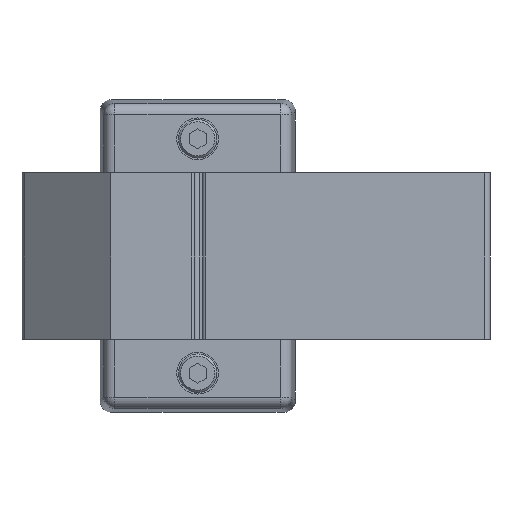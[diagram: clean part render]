
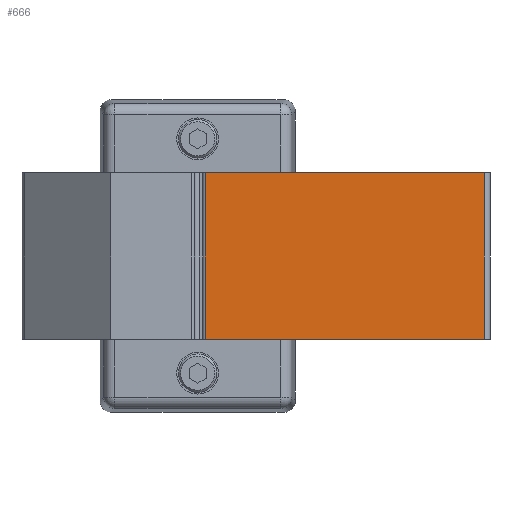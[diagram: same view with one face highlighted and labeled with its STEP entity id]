
A CAD part, left-side view. The second image highlights one B-rep face of the part: STEP entity #666.
In plain terms, the highlighted planar face has unit normal (-1, 0, 0) as drawn and (0, -1, 0) by its records, which use the part's own axes.
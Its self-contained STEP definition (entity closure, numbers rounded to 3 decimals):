
#666=ADVANCED_FACE('',(#1322),#1323,.F.);
#1322=FACE_OUTER_BOUND('',#2038,.T.);
#1323=PLANE('',#2039);
#2038=EDGE_LOOP('',(#3371,#3372,#3373,#3374));
#2039=AXIS2_PLACEMENT_3D('',#3375,#3376,#3377);
#3371=ORIENTED_EDGE('',*,*,#4503,.T.);
#3372=ORIENTED_EDGE('',*,*,#4930,.F.);
#3373=ORIENTED_EDGE('',*,*,#4931,.F.);
#3374=ORIENTED_EDGE('',*,*,#4651,.T.);
#3375=CARTESIAN_POINT('',(1.0,0.,29.8));
#3376=DIRECTION('',(0.,1.0,0.0));
#3377=DIRECTION('',(-1.0,0.,0.0));
#4503=EDGE_CURVE('',#5375,#5373,#5376,.T.);
#4651=EDGE_CURVE('',#5630,#5375,#5631,.T.);
#4930=EDGE_CURVE('',#6047,#5373,#6048,.T.);
#4931=EDGE_CURVE('',#5630,#6047,#6049,.T.);
#5373=VERTEX_POINT('',#6618);
#5375=VERTEX_POINT('',#6620);
#5376=LINE('',#6621,#6622);
#5630=VERTEX_POINT('',#6956);
#5631=LINE('',#6957,#6958);
#6047=VERTEX_POINT('',#7537);
#6048=LINE('',#7538,#7539);
#6049=LINE('',#7540,#7541);
#6618=CARTESIAN_POINT('',(51.0,0.0,0.0));
#6620=CARTESIAN_POINT('',(1.0,0.,0.0));
#6621=CARTESIAN_POINT('',(1.0,0.,0.0));
#6622=VECTOR('',#8073,1.0);
#6956=CARTESIAN_POINT('',(1.0,0.,29.8));
#6957=CARTESIAN_POINT('',(1.0,0.,29.8));
#6958=VECTOR('',#8274,1.0);
#7537=CARTESIAN_POINT('',(51.0,0.0,29.8));
#7538=CARTESIAN_POINT('',(51.0,0.0,29.8));
#7539=VECTOR('',#8585,1.0);
#7540=CARTESIAN_POINT('',(1.0,0.,29.8));
#7541=VECTOR('',#8586,1.0);
#8073=DIRECTION('',(1.0,0.,0.0));
#8274=DIRECTION('',(0.0,0.0,-1.0));
#8585=DIRECTION('',(0.0,0.0,-1.0));
#8586=DIRECTION('',(1.0,0.,0.0));
